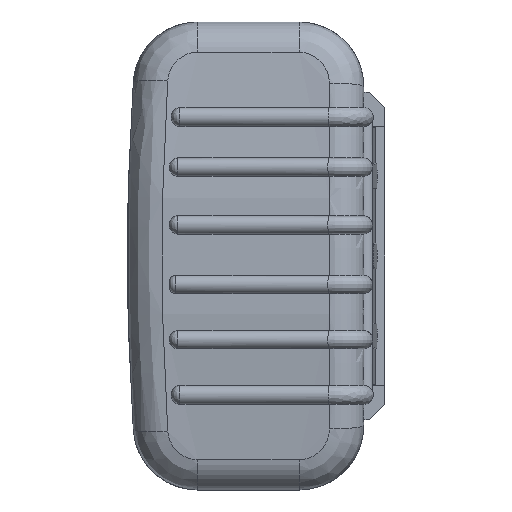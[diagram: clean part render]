
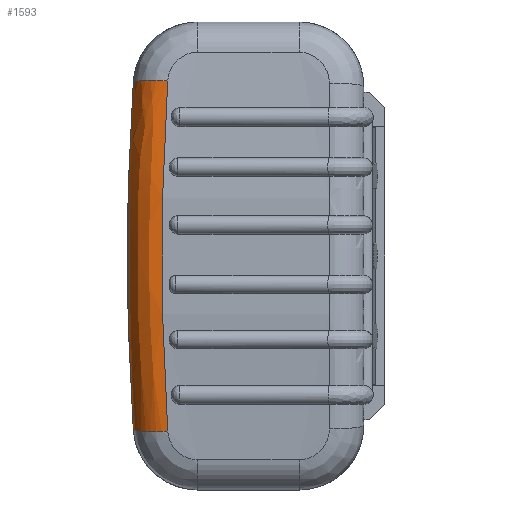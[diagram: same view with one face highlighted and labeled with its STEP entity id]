
A CAD part, left-side view. The second image highlights one B-rep face of the part: STEP entity #1593.
In plain terms, the highlighted free-form (B-spline) face has degree [3, 2] with [6, 3] control points.
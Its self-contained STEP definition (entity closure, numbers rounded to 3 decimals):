
#1593 = ADVANCED_FACE ( 'NONE', ( #15234 ), #33924, .T. ) ;
#2885 = CARTESIAN_POINT ( 'NONE',  ( 88.505, 45.446, 40.548 ) ) ;
#3044 = CARTESIAN_POINT ( 'NONE',  ( 89.935, 54.311, -27.357 ) ) ;
#3414 = VERTEX_POINT ( 'NONE', #31448 ) ;
#4526 = ORIENTED_EDGE ( 'NONE', *, *, #22617, .F. ) ;
#4670 = VERTEX_POINT ( 'NONE', #5531 ) ;
#4734 = DIRECTION ( 'NONE',  ( 0.106, 0.067, 0.992 ) ) ;
#5531 = CARTESIAN_POINT ( 'NONE',  ( 88.505, 45.446, -40.548 ) ) ;
#5707 = EDGE_CURVE ( 'NONE', #6999, #38538, #35800, .T. ) ;
#6229 = CARTESIAN_POINT ( 'NONE',  ( 82.667, 54.777, -13.411 ) ) ;
#6999 = VERTEX_POINT ( 'NONE', #40689 ) ;
#8265 = ORIENTED_EDGE ( 'NONE', *, *, #12695, .T. ) ;
#9398 = CARTESIAN_POINT ( 'NONE',  ( 90.667, 46.777, -13.516 ) ) ;
#10057 = AXIS2_PLACEMENT_3D ( 'NONE', #14865, #36868, #18021 ) ;
#10297 = CARTESIAN_POINT ( 'NONE',  ( 88.505, 45.446, -40.548 ) ) ;
#10367 = B_SPLINE_CURVE_WITH_KNOTS ( 'NONE', 3,
 ( #10297, #29169, #13436, #35490, #16612 ),
 .UNSPECIFIED., .F., .F.,
 ( 4, 1, 4 ),
 ( 0., 0.041, 0.081 ),
 .UNSPECIFIED. ) ;
#12274 = CARTESIAN_POINT ( 'NONE',  ( 90.667, 54.777, 13.695 ) ) ;
#12335 = CARTESIAN_POINT ( 'NONE',  ( 81.965, 54.328, 26.822 ) ) ;
#12695 = EDGE_CURVE ( 'NONE', #4670, #3414, #34576, .T. ) ;
#13436 = CARTESIAN_POINT ( 'NONE',  ( 91.383, 47.219, 0. ) ) ;
#14796 = CARTESIAN_POINT ( 'NONE',  ( 82.667, 54.777, 13.411 ) ) ;
#14865 = CARTESIAN_POINT ( 'NONE',  ( 80.55, 45.446, 39.698 ) ) ;
#14930 = ORIENTED_EDGE ( 'NONE', *, *, #5707, .F. ) ;
#15234 = FACE_OUTER_BOUND ( 'NONE', #24218, .T. ) ;
#15450 = CARTESIAN_POINT ( 'NONE',  ( 81.965, 54.328, 26.823 ) ) ;
#15555 = AXIS2_PLACEMENT_3D ( 'NONE', #23658, #4734, #26822 ) ;
#15596 = CARTESIAN_POINT ( 'NONE',  ( 88.449, 53.371, -41.074 ) ) ;
#16612 = CARTESIAN_POINT ( 'NONE',  ( 88.505, 45.446, 40.548 ) ) ;
#18021 = DIRECTION ( 'NONE',  ( 0.994, 0., 0.106 ) ) ;
#18608 = CARTESIAN_POINT ( 'NONE',  ( 89.95, 46.334, 27.032 ) ) ;
#18679 = CARTESIAN_POINT ( 'NONE',  ( 81.965, 54.328, -26.822 ) ) ;
#20953 = CARTESIAN_POINT ( 'NONE',  ( 80.55, 53.428, 40.234 ) ) ;
#21790 = CARTESIAN_POINT ( 'NONE',  ( 88.449, 53.371, 41.074 ) ) ;
#21939 = CARTESIAN_POINT ( 'NONE',  ( 81.965, 54.328, -26.823 ) ) ;
#22617 = EDGE_CURVE ( 'NONE', #38538, #3414, #26812, .T. ) ;
#23658 = CARTESIAN_POINT ( 'NONE',  ( 80.55, 45.446, -39.698 ) ) ;
#24203 = EDGE_CURVE ( 'NONE', #4670, #6999, #10367, .T. ) ;
#24218 = EDGE_LOOP ( 'NONE', ( #8265, #4526, #14930, #40407 ) ) ;
#24916 = CARTESIAN_POINT ( 'NONE',  ( 80.55, 53.428, 40.234 ) ) ;
#25147 = CARTESIAN_POINT ( 'NONE',  ( 89.95, 46.334, -27.032 ) ) ;
#26812 = B_SPLINE_CURVE_WITH_KNOTS ( 'NONE', 3,
 ( #24916, #12335, #37522, #18679, #40686 ),
 .UNSPECIFIED., .F., .F.,
 ( 4, 1, 4 ),
 ( 0., 0.04, 0.08 ),
 .UNSPECIFIED. ) ;
#26822 = DIRECTION ( 'NONE',  ( 0.994, 0., -0.106 ) ) ;
#28284 = CARTESIAN_POINT ( 'NONE',  ( 90.667, 54.777, -13.695 ) ) ;
#29169 = CARTESIAN_POINT ( 'NONE',  ( 89.95, 46.334, -27.032 ) ) ;
#31448 = CARTESIAN_POINT ( 'NONE',  ( 80.55, 53.428, -40.234 ) ) ;
#33924 =( BOUNDED_SURFACE ( )  B_SPLINE_SURFACE ( 3, 2, ( 
 ( #37603, #15596, #40772 ),
 ( #21939, #3044, #25147 ),
 ( #6229, #28284, #9398 ),
 ( #14796, #12274, #34319 ),
 ( #15450, #37467, #18608 ),
 ( #40625, #21790, #2885 ) ),
 .UNSPECIFIED., .F., .F., .F. ) 
 B_SPLINE_SURFACE_WITH_KNOTS ( ( 4, 2, 4 ),
 ( 3, 3 ),
 ( 0., 0.04, 0.079 ),
 ( 0., 1. ),
 .UNSPECIFIED. ) 
 GEOMETRIC_REPRESENTATION_ITEM ( )  RATIONAL_B_SPLINE_SURFACE ( (
 ( 1., 0.71, 1.),
 ( 1., 0.708, 1.),
 ( 1., 0.707, 1.),
 ( 1., 0.707, 1.),
 ( 1., 0.708, 1.),
 ( 1., 0.71, 1.) ) ) 
 REPRESENTATION_ITEM ( '' )  SURFACE ( )  );
#34319 = CARTESIAN_POINT ( 'NONE',  ( 90.667, 46.777, 13.516 ) ) ;
#34576 = CIRCLE ( 'NONE', #15555, 8. ) ;
#35490 = CARTESIAN_POINT ( 'NONE',  ( 89.95, 46.334, 27.032 ) ) ;
#35800 = CIRCLE ( 'NONE', #10057, 8. ) ;
#36868 = DIRECTION ( 'NONE',  ( -0.106, -0.067, 0.992 ) ) ;
#37467 = CARTESIAN_POINT ( 'NONE',  ( 89.935, 54.311, 27.357 ) ) ;
#37522 = CARTESIAN_POINT ( 'NONE',  ( 83.368, 55.225, 0. ) ) ;
#37603 = CARTESIAN_POINT ( 'NONE',  ( 80.55, 53.428, -40.234 ) ) ;
#38538 = VERTEX_POINT ( 'NONE', #20953 ) ;
#40407 = ORIENTED_EDGE ( 'NONE', *, *, #24203, .F. ) ;
#40625 = CARTESIAN_POINT ( 'NONE',  ( 80.55, 53.428, 40.234 ) ) ;
#40686 = CARTESIAN_POINT ( 'NONE',  ( 80.55, 53.428, -40.234 ) ) ;
#40689 = CARTESIAN_POINT ( 'NONE',  ( 88.505, 45.446, 40.548 ) ) ;
#40772 = CARTESIAN_POINT ( 'NONE',  ( 88.505, 45.446, -40.548 ) ) ;
